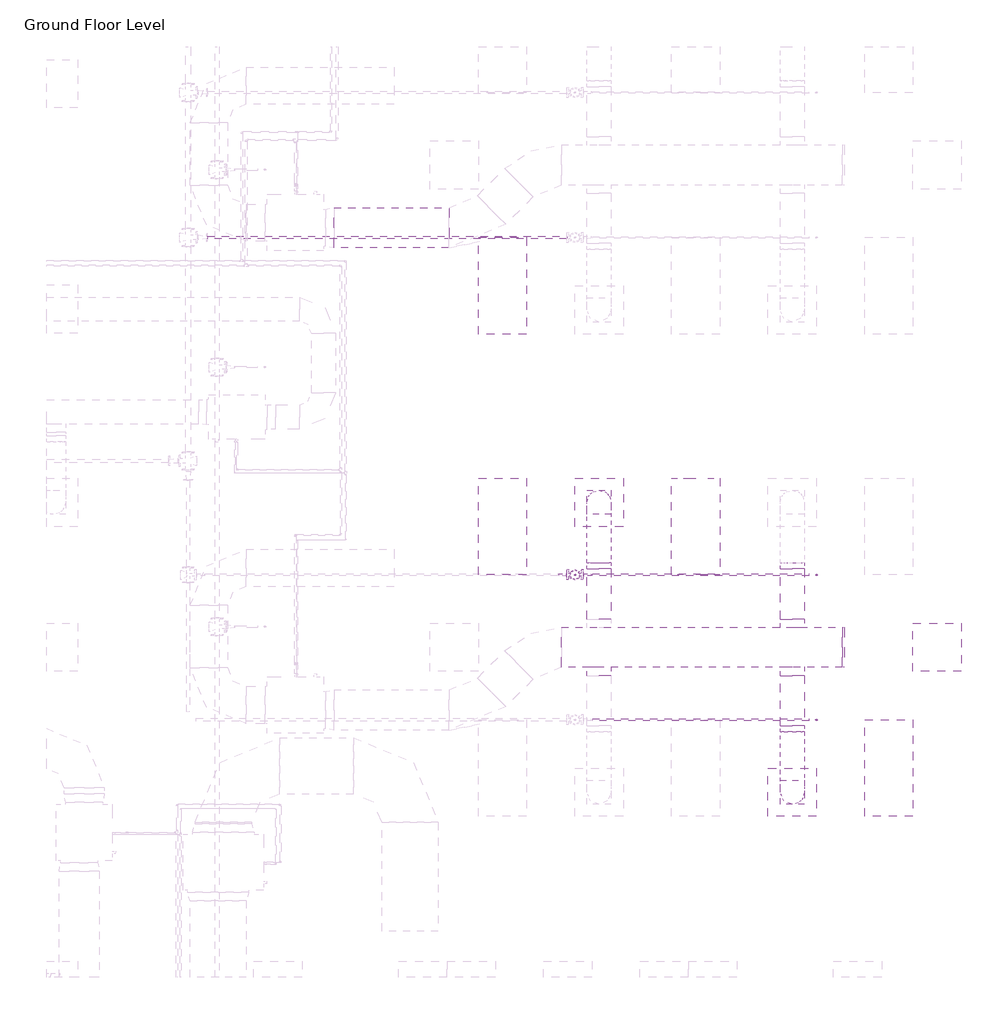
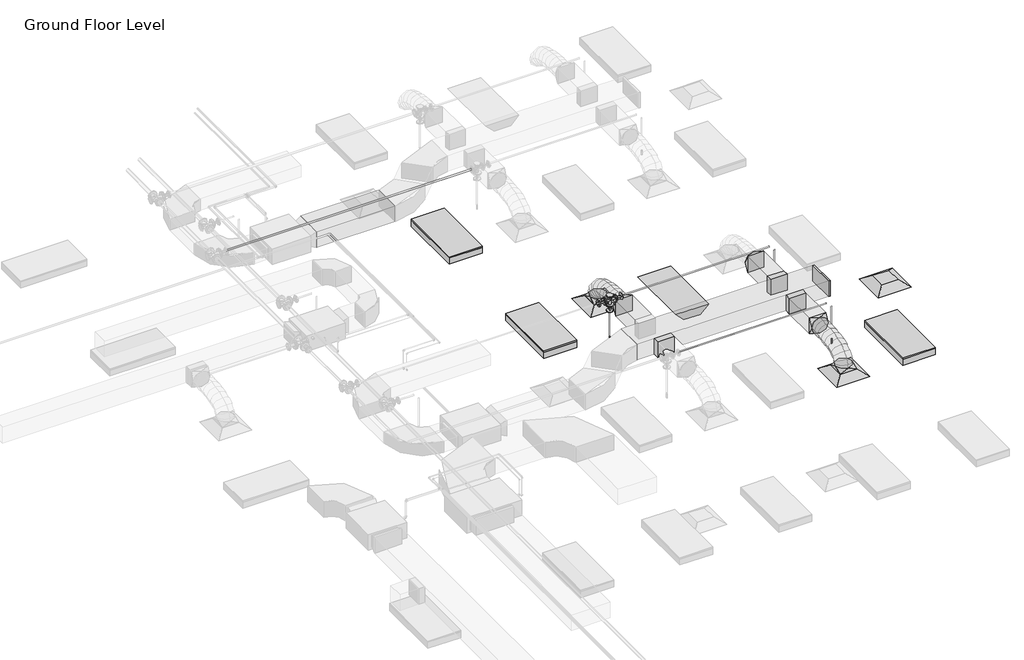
# One storey, part 37 of 74: 9 duct fittings, 7 duct segments, 6 pipe segments, 4 light fixtures, 4 pipe fittings, 3 air terminals, 3 fire suppression terminals.
"""IFC4 building model written with IfcOpenShell, lengths in millimetres."""

from ifc_helpers import new_model, si_unit, point, frame, frame_2d, origin, place, context, project, spatial, polyline, circle_curve, ellipse_curve, trimmed, segment, composite_curve, outline, extrude, transform, mapped, element, save
from ifc_brep_helpers import plane_surface, cylinder_surface, advanced_brep
from components import m_return_diffuser_600_x_600_face_300_x_300_connection_ff221211, m_rectangular_endcap_standard_72d4d00d, m_rectangular_takeoff_standard_cb0ccb98, m_rectangular_takeoff_standard_2be5eba1, m_rectangular_to_round_transition_angle_45_degree_641efff0, m_sprinkler_dry_pendent_hosted_15_mm_dry_pendent_9bda8e11, m_emergency_recessed_lighting_fixture_600x1200_277_5b10b25d, m_troffer_light_parabolic_rectangular1_0600x1200mm_4_lamp_86473d4a, m_reducer_flanged_cs_class_150_standard_ccf252ad, m_tee_round_base_flanged_cs_class_150_standard_7e5987a1

model = new_model("IFC4")

# Units and contexts
model_context = context("Model", 3, world=origin())
ifc_project = project(units=[si_unit("LENGTHUNIT", "METRE", prefix="MILLI")], contexts=[model_context])

# Site, building, storey
site = spatial("IfcSite", under=ifc_project)
building = spatial("IfcBuilding", under=site)
storey = spatial("IfcBuildingStorey", under=building, Name="Ground Floor Level", Elevation=900.0)

# Air terminals
placement = place(None, origin())
m_return_diffuser_600_x_600_face_300_x_300_connection_shape = m_return_diffuser_600_x_600_face_300_x_300_connection_ff221211(model_context)
element("IfcAirTerminal", 1, ObjectType="M_Return Diffuser : 600 x 600 Face 300 x 300 Connection", at=placement, inside=storey, context=model_context, shape_type="MappedRepresentation", body=[
    mapped(m_return_diffuser_600_x_600_face_300_x_300_connection_shape, transform((14942.7672395, -5264.7846466, 3650.0), x_axis=(1.0, 0.0, 0.0), y_axis=(0.0, 1.0, 0.0), z_axis=(0.0, 0.0, 1.0))),
])
element("IfcAirTerminal", 2, ObjectType="M_Supply Diffuser : 600 x 600 Face 300 x 300 Connection", at=placement, inside=storey, context=model_context, shape_type="MappedRepresentation", body=[
    mapped(m_return_diffuser_600_x_600_face_300_x_300_connection_shape, transform((10742.7672395, -3464.7846466, 3650.0), x_axis=(1.0, 0.0, 0.0), y_axis=(0.0, 1.0, 0.0), z_axis=(0.0, 0.0, 1.0))),
])
element("IfcAirTerminal", 3, ObjectType="M_Supply Diffuser : 600 x 600 Face 300 x 300 Connection", at=placement, inside=storey, context=model_context, shape_type="MappedRepresentation", body=[
    mapped(m_return_diffuser_600_x_600_face_300_x_300_connection_shape, transform((13142.7672395, -7064.7846466, 3650.0), x_axis=(1.0, 0.0, 0.0), y_axis=(0.0, 1.0, 0.0), z_axis=(0.0, 0.0, 1.0))),
])

# Duct fittings
m_rectangular_endcap_standard_shape = m_rectangular_endcap_standard_72d4d00d(model_context)
element("IfcDuctFitting", 4, ObjectType="M_Rectangular Endcap : Standard", at=placement, inside=storey, context=model_context, shape_type="MappedRepresentation", body=[
    mapped(m_rectangular_endcap_standard_shape, transform((13766.7301365, -5264.7846466, 4100.0), x_axis=(1.0, 0.0, 0.0), y_axis=(0.0, 1.0, 0.0), z_axis=(0.0, 0.0, 1.0))),
])
m_rectangular_takeoff_standard_shape = m_rectangular_takeoff_standard_cb0ccb98(model_context)
element("IfcDuctFitting", 5, ObjectType="M_Rectangular Takeoff : Standard", at=placement, inside=storey, context=model_context, shape_type="MappedRepresentation", body=[
    mapped(m_rectangular_takeoff_standard_shape, transform((13142.7672395, -5014.7846466, 4100.0), x_axis=(0.0, 1.0, 0.0), y_axis=(1.0, 0.0, 0.0), z_axis=(0.0, 0.0, -1.0))),
])
m_rectangular_takeoff_standard_2_shape = m_rectangular_takeoff_standard_2be5eba1(model_context)
element("IfcDuctFitting", 6, ObjectType="M_Rectangular Takeoff : Standard", at=placement, inside=storey, context=model_context, shape_type="MappedRepresentation", body=[
    mapped(m_rectangular_takeoff_standard_2_shape, transform((13142.7672395, -5514.7846466, 4100.0), x_axis=(0.0, -1.0, 0.0), y_axis=(-1.0, 0.0, 0.0), z_axis=(0.0, 0.0, -1.0))),
])
element("IfcDuctFitting", 7, ObjectType="M_Rectangular Takeoff : Standard", at=placement, inside=storey, context=model_context, shape_type="MappedRepresentation", body=[
    mapped(m_rectangular_takeoff_standard_2_shape, transform((10742.7672395, -5514.7846466, 4100.0), x_axis=(0.0, -1.0, 0.0), y_axis=(-1.0, 0.0, 0.0), z_axis=(0.0, 0.0, -1.0))),
])
m_rectangular_to_round_transition_angle_45_degree_shape = m_rectangular_to_round_transition_angle_45_degree_641efff0(model_context)
element("IfcDuctFitting", 8, ObjectType="M_Rectangular to Round Transition - Angle : 45 Degree", at=placement, inside=storey, context=model_context, shape_type="MappedRepresentation", body=[
    mapped(m_rectangular_to_round_transition_angle_45_degree_shape, transform((13142.7672395, -7064.7846466, 3751.6), x_axis=(0.0, 0.0, 1.0), y_axis=(-1.0, 0.0, 0.0), z_axis=(0.0, -1.0, 0.0))),
])
element("IfcDuctFitting", 9, ObjectType="M_Rectangular to Round Transition - Angle : 45 Degree", at=placement, inside=storey, context=model_context, shape_type="MappedRepresentation", body=[
    mapped(m_rectangular_to_round_transition_angle_45_degree_shape, transform((13142.7672395, -6237.4487153, 4100.0), x_axis=(0.0, -1.0, 0.0), y_axis=(1.0, 0.0, 0.0), z_axis=(0.0, 0.0, 1.0))),
])
element("IfcDuctFitting", 10, ObjectType="M_Rectangular to Round Transition - Angle : 45 Degree", at=placement, inside=storey, context=model_context, shape_type="MappedRepresentation", body=[
    mapped(m_rectangular_to_round_transition_angle_45_degree_shape, transform((13142.7672395, -4292.1205779, 4100.0), x_axis=(0.0, 1.0, 0.0), y_axis=(-1.0, 0.0, 0.0), z_axis=(0.0, 0.0, 1.0))),
])
element("IfcDuctFitting", 11, ObjectType="M_Rectangular to Round Transition - Angle : 45 Degree", at=placement, inside=storey, context=model_context, shape_type="MappedRepresentation", body=[
    mapped(m_rectangular_to_round_transition_angle_45_degree_shape, transform((10742.7672395, -3464.7846466, 3751.6), x_axis=(0.0, 0.0, 1.0), y_axis=(-1.0, 0.0, 0.0), z_axis=(0.0, -1.0, 0.0))),
])
element("IfcDuctFitting", 12, ObjectType="M_Rectangular to Round Transition - Angle : 45 Degree", at=placement, inside=storey, context=model_context, shape_type="MappedRepresentation", body=[
    mapped(m_rectangular_to_round_transition_angle_45_degree_shape, transform((10742.7672395, -4292.1205779, 4100.0), x_axis=(0.0, 1.0, 0.0), y_axis=(-1.0, 0.0, 0.0), z_axis=(0.0, 0.0, 1.0))),
])

# Duct segments
element("IfcDuctSegment", 13, ObjectType="Flex - Round", at=placement, inside=storey, context=model_context, shape_type="AdvancedBrep", body=[
    advanced_brep(
    [(13292.7672395, -7064.7846466, 3826.6), (13142.7672395, -7214.7846466, 3826.6), (12992.7672395, -7064.7846466, 3826.6), (13142.7672395, -6914.7846466, 3826.6), (13292.7672395, -7064.7846466, 3857.9377114), (13142.7672395, -7214.7846466, 3883.5809337), (12992.7672395, -7064.7846466, 3857.9377114), (13142.7672395, -6914.7846466, 3832.2944892), (13292.7672395, -7047.7687141, 3906.2505728), (13142.7672395, -7181.506693, 3978.0660967), (12992.7672395, -7047.7687141, 3906.2505728), (13142.7672395, -6914.0307351, 3834.435049), (13292.7672395, -7000.5848337, 3968.7113131), (13142.7672395, -7104.7907329, 4079.6206026), (12992.7672395, -7000.5848337, 3968.7113131), (13142.7672395, -6896.3789345, 3857.8020236), (13292.7672395, -6929.0288815, 4016.0700639), (13142.7672395, -6997.9629372, 4150.3237489), (12992.7672395, -6929.0288815, 4016.0700639), (13142.7672395, -6860.0948259, 3881.8163788), (13292.7672395, -6838.8967335, 4050.4146682), (13142.7672395, -6882.4574967, 4194.3367758), (12992.7672395, -6838.8967335, 4050.4146682), (13142.7672395, -6795.3359704, 3906.4925606), (13292.7672395, -6735.9842657, 4073.8329691), (13142.7672395, -6762.5451897, 4221.6234841), (12992.7672395, -6735.9842657, 4073.8329691), (13142.7672395, -6709.4233417, 3926.0424542), (13292.7672395, -6626.087354, 4088.4128097), (13142.7672395, -6641.2382563, 4237.7170733), (12992.7672395, -6626.087354, 4088.4128097), (13142.7672395, -6610.9364516, 3939.1085462), (13292.7672395, -6515.0018743, 4096.242033), (13142.7672395, -6522.5072025, 4246.085151), (12992.7672395, -6515.0018743, 4096.242033), (13142.7672395, -6507.4965462, 3946.398915), (13292.7672395, -6408.5237028, 4099.4084821), (13142.7672395, -6411.2151959, 4249.394754), (12992.7672395, -6408.5237028, 4099.4084821), (13142.7672395, -6405.8322097, 3949.4222102), (13292.7672395, -6312.4487153, 4100.0), (13142.7672395, -6311.5252075, 3950.0028429), (12992.7672395, -6312.4487153, 4100.0), (13142.7672395, -6313.3722232, 4249.9971571)],
    [
        (0, 1, circle_curve(frame((13142.7672395, -7064.7846466, 3826.6), z_axis=(0.0, 0.0, -1.0), x_axis=(1.0, 0.0, 0.0)), 150.0)),
        (1, 2, circle_curve(frame((13142.7672395, -7064.7846466, 3826.6), z_axis=(0.0, 0.0, -1.0), x_axis=(1.0, 0.0, 0.0)), 150.0)),
        (2, 3, circle_curve(frame((13142.7672395, -7064.7846466, 3826.6), z_axis=(0.0, 0.0, -1.0), x_axis=(1.0, 0.0, 0.0)), 150.0)),
        (3, 0, circle_curve(frame((13142.7672395, -7064.7846466, 3826.6), z_axis=(0.0, 0.0, -1.0), x_axis=(1.0, 0.0, 0.0)), 150.0)),
        (0, 4),
        (4, 5, ellipse_curve(frame((13142.7672395, -7064.7846466, 3857.9377114), z_axis=(0.0, -0.16851014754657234, -0.9856999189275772), x_axis=(0.0, 0.9856999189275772, -0.1685101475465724)), 152.176131, 150.0)),
        (5, 1),
        (5, 6, ellipse_curve(frame((13142.7672395, -7064.7846466, 3857.9377114), z_axis=(0.0, -0.16851014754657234, -0.9856999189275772), x_axis=(0.0, 0.9856999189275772, -0.1685101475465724)), 152.176131, 150.0)),
        (6, 2),
        (6, 7, ellipse_curve(frame((13142.7672395, -7064.7846466, 3857.9377114), z_axis=(0.0, -0.16851014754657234, -0.9856999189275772), x_axis=(0.0, 0.9856999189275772, -0.1685101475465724)), 152.176131, 150.0)),
        (7, 3),
        (7, 4, ellipse_curve(frame((13142.7672395, -7064.7846466, 3857.9377114), z_axis=(0.0, -0.16851014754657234, -0.9856999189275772), x_axis=(0.0, 0.9856999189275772, -0.1685101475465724)), 152.176131, 150.0)),
        (4, 8),
        (8, 9, ellipse_curve(frame((13142.7672395, -7047.7687141, 3906.2505728), z_axis=(0.0, -0.47309225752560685, -0.8810128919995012), x_axis=(0.0, 0.881012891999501, -0.4730922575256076)), 151.8002519, 150.0)),
        (9, 5),
        (9, 10, ellipse_curve(frame((13142.7672395, -7047.7687141, 3906.2505728), z_axis=(0.0, -0.47309225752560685, -0.8810128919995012), x_axis=(0.0, 0.881012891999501, -0.4730922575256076)), 151.8002519, 150.0)),
        (10, 6),
        (10, 11, ellipse_curve(frame((13142.7672395, -7047.7687141, 3906.2505728), z_axis=(0.0, -0.47309225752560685, -0.8810128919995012), x_axis=(0.0, 0.881012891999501, -0.4730922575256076)), 151.8002519, 150.0)),
        (11, 7),
        (11, 8, ellipse_curve(frame((13142.7672395, -7047.7687141, 3906.2505728), z_axis=(0.0, -0.47309225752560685, -0.8810128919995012), x_axis=(0.0, 0.881012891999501, -0.4730922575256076)), 151.8002519, 150.0)),
        (8, 12),
        (12, 13, ellipse_curve(frame((13142.7672395, -7000.5848337, 3968.7113131), z_axis=(0.0, -0.7287877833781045, -0.6847396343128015), x_axis=(0.0, 0.6847396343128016, -0.7287877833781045)), 152.1832446, 150.0)),
        (13, 9),
        (13, 14, ellipse_curve(frame((13142.7672395, -7000.5848337, 3968.7113131), z_axis=(0.0, -0.7287877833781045, -0.6847396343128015), x_axis=(0.0, 0.6847396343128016, -0.7287877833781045)), 152.1832446, 150.0)),
        (14, 10),
        (14, 15, ellipse_curve(frame((13142.7672395, -7000.5848337, 3968.7113131), z_axis=(0.0, -0.7287877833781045, -0.6847396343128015), x_axis=(0.0, 0.6847396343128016, -0.7287877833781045)), 152.1832446, 150.0)),
        (15, 11),
        (15, 12, ellipse_curve(frame((13142.7672395, -7000.5848337, 3968.7113131), z_axis=(0.0, -0.7287877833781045, -0.6847396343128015), x_axis=(0.0, 0.6847396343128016, -0.7287877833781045)), 152.1832446, 150.0)),
        (12, 16),
        (16, 17, ellipse_curve(frame((13142.7672395, -6929.0288815, 4016.0700639), z_axis=(0.0, -0.8895859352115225, -0.4567678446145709), x_axis=(0.0, 0.45676784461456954, -0.8895859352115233)), 150.91705, 150.0)),
        (17, 13),
        (17, 18, ellipse_curve(frame((13142.7672395, -6929.0288815, 4016.0700639), z_axis=(0.0, -0.8895859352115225, -0.4567678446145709), x_axis=(0.0, 0.45676784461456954, -0.8895859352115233)), 150.91705, 150.0)),
        (18, 14),
        (18, 19, ellipse_curve(frame((13142.7672395, -6929.0288815, 4016.0700639), z_axis=(0.0, -0.8895859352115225, -0.4567678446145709), x_axis=(0.0, 0.45676784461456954, -0.8895859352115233)), 150.91705, 150.0)),
        (19, 15),
        (19, 16, ellipse_curve(frame((13142.7672395, -6929.0288815, 4016.0700639), z_axis=(0.0, -0.8895859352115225, -0.4567678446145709), x_axis=(0.0, 0.45676784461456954, -0.8895859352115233)), 150.91705, 150.0)),
        (16, 20),
        (20, 21, ellipse_curve(frame((13142.7672395, -6838.8967335, 4050.4146682), z_axis=(0.0, -0.9571203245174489, -0.2896906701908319), x_axis=(0.0, 0.2896906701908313, -0.9571203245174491)), 150.369921, 150.0)),
        (21, 17),
        (21, 22, ellipse_curve(frame((13142.7672395, -6838.8967335, 4050.4146682), z_axis=(0.0, -0.9571203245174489, -0.2896906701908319), x_axis=(0.0, 0.2896906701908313, -0.9571203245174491)), 150.369921, 150.0)),
        (22, 18),
        (22, 23, ellipse_curve(frame((13142.7672395, -6838.8967335, 4050.4146682), z_axis=(0.0, -0.9571203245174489, -0.2896906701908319), x_axis=(0.0, 0.2896906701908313, -0.9571203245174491)), 150.369921, 150.0)),
        (23, 19),
        (23, 20, ellipse_curve(frame((13142.7672395, -6838.8967335, 4050.4146682), z_axis=(0.0, -0.9571203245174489, -0.2896906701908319), x_axis=(0.0, 0.2896906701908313, -0.9571203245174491)), 150.369921, 150.0)),
        (20, 24),
        (24, 25, ellipse_curve(frame((13142.7672395, -6735.9842657, 4073.8329691), z_axis=(0.0, -0.9842313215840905, -0.17688613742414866), x_axis=(0.0, 0.17688613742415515, -0.9842313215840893)), 150.1583131, 150.0)),
        (25, 21),
        (25, 26, ellipse_curve(frame((13142.7672395, -6735.9842657, 4073.8329691), z_axis=(0.0, -0.9842313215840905, -0.17688613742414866), x_axis=(0.0, 0.17688613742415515, -0.9842313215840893)), 150.1583131, 150.0)),
        (26, 22),
        (26, 27, ellipse_curve(frame((13142.7672395, -6735.9842657, 4073.8329691), z_axis=(0.0, -0.9842313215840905, -0.17688613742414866), x_axis=(0.0, 0.17688613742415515, -0.9842313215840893)), 150.1583131, 150.0)),
        (27, 23),
        (27, 24, ellipse_curve(frame((13142.7672395, -6735.9842657, 4073.8329691), z_axis=(0.0, -0.9842313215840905, -0.17688613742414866), x_axis=(0.0, 0.17688613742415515, -0.9842313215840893)), 150.1583131, 150.0)),
        (24, 28),
        (28, 29, ellipse_curve(frame((13142.7672395, -6626.087354, 4088.4128097), z_axis=(0.0, -0.9948906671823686, -0.10095821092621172), x_axis=(0.0, 0.10095821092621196, -0.9948906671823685)), 150.0710264, 150.0)),
        (29, 25),
        (29, 30, ellipse_curve(frame((13142.7672395, -6626.087354, 4088.4128097), z_axis=(0.0, -0.9948906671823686, -0.10095821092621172), x_axis=(0.0, 0.10095821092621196, -0.9948906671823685)), 150.0710264, 150.0)),
        (30, 26),
        (30, 31, ellipse_curve(frame((13142.7672395, -6626.087354, 4088.4128097), z_axis=(0.0, -0.9948906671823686, -0.10095821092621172), x_axis=(0.0, 0.10095821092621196, -0.9948906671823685)), 150.0710264, 150.0)),
        (31, 27),
        (31, 28, ellipse_curve(frame((13142.7672395, -6626.087354, 4088.4128097), z_axis=(0.0, -0.9948906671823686, -0.10095821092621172), x_axis=(0.0, 0.10095821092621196, -0.9948906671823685)), 150.0710264, 150.0)),
        (28, 32),
        (32, 33, ellipse_curve(frame((13142.7672395, -6515.0018743, 4096.242033), z_axis=(0.0, -0.9987479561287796, -0.050025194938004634), x_axis=(0.0, 0.050025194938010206, -0.9987479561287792)), 150.0309634, 150.0)),
        (33, 29),
        (33, 34, ellipse_curve(frame((13142.7672395, -6515.0018743, 4096.242033), z_axis=(0.0, -0.9987479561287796, -0.050025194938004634), x_axis=(0.0, 0.050025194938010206, -0.9987479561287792)), 150.0309634, 150.0)),
        (34, 30),
        (34, 35, ellipse_curve(frame((13142.7672395, -6515.0018743, 4096.242033), z_axis=(0.0, -0.9987479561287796, -0.050025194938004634), x_axis=(0.0, 0.050025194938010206, -0.9987479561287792)), 150.0309634, 150.0)),
        (35, 31),
        (35, 32, ellipse_curve(frame((13142.7672395, -6515.0018743, 4096.242033), z_axis=(0.0, -0.9987479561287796, -0.050025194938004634), x_axis=(0.0, 0.050025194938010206, -0.9987479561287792)), 150.0309634, 150.0)),
        (32, 36),
        (36, 37, ellipse_curve(frame((13142.7672395, -6408.5237028, 4099.4084821), z_axis=(0.0, -0.9998390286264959, -0.01794204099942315), x_axis=(0.0, 0.01794204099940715, -0.9998390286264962)), 150.0104193, 150.0)),
        (37, 33),
        (37, 38, ellipse_curve(frame((13142.7672395, -6408.5237028, 4099.4084821), z_axis=(0.0, -0.9998390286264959, -0.01794204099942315), x_axis=(0.0, 0.01794204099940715, -0.9998390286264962)), 150.0104193, 150.0)),
        (38, 34),
        (38, 39, ellipse_curve(frame((13142.7672395, -6408.5237028, 4099.4084821), z_axis=(0.0, -0.9998390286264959, -0.01794204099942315), x_axis=(0.0, 0.01794204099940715, -0.9998390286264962)), 150.0104193, 150.0)),
        (39, 35),
        (39, 36, ellipse_curve(frame((13142.7672395, -6408.5237028, 4099.4084821), z_axis=(0.0, -0.9998390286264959, -0.01794204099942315), x_axis=(0.0, 0.01794204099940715, -0.9998390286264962)), 150.0104193, 150.0)),
        (40, 41, circle_curve(frame((13142.7672395, -6312.4487153, 4100.0), z_axis=(0.0, 0.9999810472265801, 0.0061567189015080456), x_axis=(1.0, 0.0, 0.0)), 150.0)),
        (41, 42, circle_curve(frame((13142.7672395, -6312.4487153, 4100.0), z_axis=(0.0, 0.9999810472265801, 0.0061567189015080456), x_axis=(1.0, 0.0, 0.0)), 150.0)),
        (42, 43, circle_curve(frame((13142.7672395, -6312.4487153, 4100.0), z_axis=(0.0, 0.9999810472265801, 0.0061567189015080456), x_axis=(1.0, 0.0, 0.0)), 150.0)),
        (43, 40, circle_curve(frame((13142.7672395, -6312.4487153, 4100.0), z_axis=(0.0, 0.9999810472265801, 0.0061567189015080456), x_axis=(1.0, 0.0, 0.0)), 150.0)),
        (36, 40),
        (43, 37),
        (42, 38),
        (41, 39),
    ],
    [
        plane_surface(frame((13142.7672395, -7214.7846466, 3826.6), z_axis=(0.0, 0.0, -1.0), x_axis=(1.0, 0.0, 0.0))),
        cylinder_surface(frame((13142.7672395, -7064.7846466, 3826.6), z_axis=(0.0, 0.0, -1.0), x_axis=(1.0, 0.0, 0.0)), 150.0),
        cylinder_surface(frame((13142.7672395, -7064.7846466, 3857.9377114), z_axis=(0.0, -0.3322008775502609, -0.9432086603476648), x_axis=(1.0, 0.0, 0.0)), 150.0),
        cylinder_surface(frame((13142.7672395, -7047.7687141, 3906.2505728), z_axis=(0.0, -0.602762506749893, -0.7979206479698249), x_axis=(1.0, 0.0, 0.0)), 150.0),
        cylinder_surface(frame((13142.7672395, -7000.5848337, 3968.7113131), z_axis=(0.0, -0.833902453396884, -0.5519118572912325), x_axis=(1.0, 0.0, 0.0)), 150.0),
        cylinder_surface(frame((13142.7672395, -6929.0288815, 4016.0700639), z_axis=(0.0, -0.934458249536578, -0.35607271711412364), x_axis=(1.0, 0.0, 0.0)), 150.0),
        cylinder_surface(frame((13142.7672395, -6838.8967335, 4050.4146682), z_axis=(0.0, -0.9750732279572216, -0.22188330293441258), x_axis=(1.0, 0.0, 0.0)), 150.0),
        cylinder_surface(frame((13142.7672395, -6735.9842657, 4073.8329691), z_axis=(0.0, -0.9913140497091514, -0.1315159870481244), x_axis=(1.0, 0.0, 0.0)), 150.0),
        cylinder_surface(frame((13142.7672395, -6626.087354, 4088.4128097), z_axis=(0.0, -0.9975255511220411, -0.07030487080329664), x_axis=(1.0, 0.0, 0.0)), 150.0),
        cylinder_surface(frame((13142.7672395, -6515.0018743, 4096.242033), z_axis=(0.0, -0.9995581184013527, -0.029724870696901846), x_axis=(1.0, 0.0, 0.0)), 150.0),
        plane_surface(frame((13142.7672395, -6313.3722232, 4249.9971571), z_axis=(0.0, 0.9999810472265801, 0.0061567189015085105), x_axis=(1.0, 0.0, 0.0))),
        cylinder_surface(frame((13142.7672395, -6408.5237028, 4099.4084821), z_axis=(0.0, -0.9999810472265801, -0.0061567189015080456), x_axis=(1.0, 0.0, 0.0)), 150.0),
    ],
    [
        (0, [[1, 2, 3, 4]]),
        (1, [[-1, 5, 6, 7]]),
        (1, [[-2, -7, 8, 9]]),
        (1, [[-3, -9, 10, 11]]),
        (1, [[-4, -11, 12, -5]]),
        (2, [[-6, 13, 14, 15]]),
        (2, [[-8, -15, 16, 17]]),
        (2, [[-10, -17, 18, 19]]),
        (2, [[-12, -19, 20, -13]]),
        (3, [[-14, 21, 22, 23]]),
        (3, [[-16, -23, 24, 25]]),
        (3, [[-18, -25, 26, 27]]),
        (3, [[-20, -27, 28, -21]]),
        (4, [[-22, 29, 30, 31]]),
        (4, [[-24, -31, 32, 33]]),
        (4, [[-26, -33, 34, 35]]),
        (4, [[-28, -35, 36, -29]]),
        (5, [[-30, 37, 38, 39]]),
        (5, [[-32, -39, 40, 41]]),
        (5, [[-34, -41, 42, 43]]),
        (5, [[-36, -43, 44, -37]]),
        (6, [[-38, 45, 46, 47]]),
        (6, [[-40, -47, 48, 49]]),
        (6, [[-42, -49, 50, 51]]),
        (6, [[-44, -51, 52, -45]]),
        (7, [[-46, 53, 54, 55]]),
        (7, [[-48, -55, 56, 57]]),
        (7, [[-50, -57, 58, 59]]),
        (7, [[-52, -59, 60, -53]]),
        (8, [[-54, 61, 62, 63]]),
        (8, [[-56, -63, 64, 65]]),
        (8, [[-58, -65, 66, 67]]),
        (8, [[-60, -67, 68, -61]]),
        (9, [[-62, 69, 70, 71]]),
        (9, [[-64, -71, 72, 73]]),
        (9, [[-66, -73, 74, 75]]),
        (9, [[-68, -75, 76, -69]]),
        (10, [[77, 78, 79, 80]]),
        (11, [[-70, 81, -80, 82]]),
        (11, [[-72, -82, -79, 83]]),
        (11, [[-74, -83, -78, 84]]),
        (11, [[-76, -84, -77, -81]]),
    ],
),
])
element("IfcDuctSegment", 14, ObjectType="Flex - Round", at=placement, inside=storey, context=model_context, shape_type="AdvancedBrep", body=[
    advanced_brep(
    [(10892.7672395, -3464.7846466, 3826.6), (10742.7672395, -3614.7846466, 3826.6), (10592.7672395, -3464.7846466, 3826.6), (10742.7672395, -3314.7846466, 3826.6), (10892.7672395, -3464.7846466, 3857.9377114), (10742.7672395, -3614.7846466, 3832.2944892), (10592.7672395, -3464.7846466, 3857.9377114), (10742.7672395, -3314.7846466, 3883.5809337), (10892.7672395, -3481.8005792, 3906.2505728), (10742.7672395, -3615.5385581, 3834.435049), (10592.7672395, -3481.8005792, 3906.2505728), (10742.7672395, -3348.0626002, 3978.0660967), (10892.7672395, -3528.9844595, 3968.7113131), (10742.7672395, -3633.1903588, 3857.8020236), (10592.7672395, -3528.9844595, 3968.7113131), (10742.7672395, -3424.7785603, 4079.6206026), (10892.7672395, -3600.5404117, 4016.0700639), (10742.7672395, -3669.4744673, 3881.8163788), (10592.7672395, -3600.5404117, 4016.0700639), (10742.7672395, -3531.606356, 4150.3237489), (10892.7672395, -3690.6725597, 4050.4146682), (10742.7672395, -3734.2333228, 3906.4925606), (10592.7672395, -3690.6725597, 4050.4146682), (10742.7672395, -3647.1117965, 4194.3367758), (10892.7672395, -3793.5850275, 4073.8329691), (10742.7672395, -3820.1459515, 3926.0424542), (10592.7672395, -3793.5850275, 4073.8329691), (10742.7672395, -3767.0241035, 4221.6234841), (10892.7672395, -3903.4819392, 4088.4128097), (10742.7672395, -3918.6328416, 3939.1085462), (10592.7672395, -3903.4819392, 4088.4128097), (10742.7672395, -3888.3310369, 4237.7170733), (10892.7672395, -4014.5674189, 4096.242033), (10742.7672395, -4022.0727471, 3946.398915), (10592.7672395, -4014.5674189, 4096.242033), (10742.7672395, -4007.0620907, 4246.085151), (10892.7672395, -4121.0455904, 4099.4084821), (10742.7672395, -4123.7370835, 3949.4222102), (10592.7672395, -4121.0455904, 4099.4084821), (10742.7672395, -4118.3540973, 4249.394754), (10892.7672395, -4217.1205779, 4100.0), (10742.7672395, -4216.1970701, 4249.9971571), (10592.7672395, -4217.1205779, 4100.0), (10742.7672395, -4218.0440857, 3950.0028429)],
    [
        (0, 1, circle_curve(frame((10742.7672395, -3464.7846466, 3826.6), z_axis=(0.0, 0.0, -1.0), x_axis=(1.0, 0.0, 0.0)), 150.0)),
        (1, 2, circle_curve(frame((10742.7672395, -3464.7846466, 3826.6), z_axis=(0.0, 0.0, -1.0), x_axis=(1.0, 0.0, 0.0)), 150.0)),
        (2, 3, circle_curve(frame((10742.7672395, -3464.7846466, 3826.6), z_axis=(0.0, 0.0, -1.0), x_axis=(1.0, 0.0, 0.0)), 150.0)),
        (3, 0, circle_curve(frame((10742.7672395, -3464.7846466, 3826.6), z_axis=(0.0, 0.0, -1.0), x_axis=(1.0, 0.0, 0.0)), 150.0)),
        (0, 4),
        (4, 5, ellipse_curve(frame((10742.7672395, -3464.7846466, 3857.9377114), z_axis=(0.0, 0.16851014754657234, -0.9856999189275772), x_axis=(0.0, -0.9856999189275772, -0.1685101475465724)), 152.176131, 150.0)),
        (5, 1),
        (5, 6, ellipse_curve(frame((10742.7672395, -3464.7846466, 3857.9377114), z_axis=(0.0, 0.16851014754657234, -0.9856999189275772), x_axis=(0.0, -0.9856999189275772, -0.1685101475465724)), 152.176131, 150.0)),
        (6, 2),
        (6, 7, ellipse_curve(frame((10742.7672395, -3464.7846466, 3857.9377114), z_axis=(0.0, 0.16851014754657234, -0.9856999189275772), x_axis=(0.0, -0.9856999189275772, -0.1685101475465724)), 152.176131, 150.0)),
        (7, 3),
        (7, 4, ellipse_curve(frame((10742.7672395, -3464.7846466, 3857.9377114), z_axis=(0.0, 0.16851014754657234, -0.9856999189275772), x_axis=(0.0, -0.9856999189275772, -0.1685101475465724)), 152.176131, 150.0)),
        (4, 8),
        (8, 9, ellipse_curve(frame((10742.7672395, -3481.8005792, 3906.2505728), z_axis=(0.0, 0.47309225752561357, -0.8810128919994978), x_axis=(0.0, -0.8810128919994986, -0.47309225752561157)), 151.8002519, 150.0)),
        (9, 5),
        (9, 10, ellipse_curve(frame((10742.7672395, -3481.8005792, 3906.2505728), z_axis=(0.0, 0.47309225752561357, -0.8810128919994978), x_axis=(0.0, -0.8810128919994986, -0.47309225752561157)), 151.8002519, 150.0)),
        (10, 6),
        (10, 11, ellipse_curve(frame((10742.7672395, -3481.8005792, 3906.2505728), z_axis=(0.0, 0.47309225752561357, -0.8810128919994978), x_axis=(0.0, -0.8810128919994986, -0.47309225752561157)), 151.8002519, 150.0)),
        (11, 7),
        (11, 8, ellipse_curve(frame((10742.7672395, -3481.8005792, 3906.2505728), z_axis=(0.0, 0.47309225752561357, -0.8810128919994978), x_axis=(0.0, -0.8810128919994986, -0.47309225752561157)), 151.8002519, 150.0)),
        (8, 12),
        (12, 13, ellipse_curve(frame((10742.7672395, -3528.9844595, 3968.7113131), z_axis=(0.0, 0.7287877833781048, -0.6847396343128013), x_axis=(0.0, -0.6847396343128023, -0.7287877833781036)), 152.1832446, 150.0)),
        (13, 9),
        (13, 14, ellipse_curve(frame((10742.7672395, -3528.9844595, 3968.7113131), z_axis=(0.0, 0.7287877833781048, -0.6847396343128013), x_axis=(0.0, -0.6847396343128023, -0.7287877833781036)), 152.1832446, 150.0)),
        (14, 10),
        (14, 15, ellipse_curve(frame((10742.7672395, -3528.9844595, 3968.7113131), z_axis=(0.0, 0.7287877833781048, -0.6847396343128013), x_axis=(0.0, -0.6847396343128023, -0.7287877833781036)), 152.1832446, 150.0)),
        (15, 11),
        (15, 12, ellipse_curve(frame((10742.7672395, -3528.9844595, 3968.7113131), z_axis=(0.0, 0.7287877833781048, -0.6847396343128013), x_axis=(0.0, -0.6847396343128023, -0.7287877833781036)), 152.1832446, 150.0)),
        (12, 16),
        (16, 17, ellipse_curve(frame((10742.7672395, -3600.5404117, 4016.0700639), z_axis=(0.0, 0.8895859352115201, -0.45676784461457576), x_axis=(0.0, -0.45676784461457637, -0.8895859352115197)), 150.91705, 150.0)),
        (17, 13),
        (17, 18, ellipse_curve(frame((10742.7672395, -3600.5404117, 4016.0700639), z_axis=(0.0, 0.8895859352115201, -0.45676784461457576), x_axis=(0.0, -0.45676784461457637, -0.8895859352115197)), 150.91705, 150.0)),
        (18, 14),
        (18, 19, ellipse_curve(frame((10742.7672395, -3600.5404117, 4016.0700639), z_axis=(0.0, 0.8895859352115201, -0.45676784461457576), x_axis=(0.0, -0.45676784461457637, -0.8895859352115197)), 150.91705, 150.0)),
        (19, 15),
        (19, 16, ellipse_curve(frame((10742.7672395, -3600.5404117, 4016.0700639), z_axis=(0.0, 0.8895859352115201, -0.45676784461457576), x_axis=(0.0, -0.45676784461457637, -0.8895859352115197)), 150.91705, 150.0)),
        (16, 20),
        (20, 21, ellipse_curve(frame((10742.7672395, -3690.6725597, 4050.4146682), z_axis=(0.0, 0.9571203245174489, -0.2896906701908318), x_axis=(0.0, -0.28969067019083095, -0.9571203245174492)), 150.369921, 150.0)),
        (21, 17),
        (21, 22, ellipse_curve(frame((10742.7672395, -3690.6725597, 4050.4146682), z_axis=(0.0, 0.9571203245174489, -0.2896906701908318), x_axis=(0.0, -0.28969067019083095, -0.9571203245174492)), 150.369921, 150.0)),
        (22, 18),
        (22, 23, ellipse_curve(frame((10742.7672395, -3690.6725597, 4050.4146682), z_axis=(0.0, 0.9571203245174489, -0.2896906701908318), x_axis=(0.0, -0.28969067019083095, -0.9571203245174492)), 150.369921, 150.0)),
        (23, 19),
        (23, 20, ellipse_curve(frame((10742.7672395, -3690.6725597, 4050.4146682), z_axis=(0.0, 0.9571203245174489, -0.2896906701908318), x_axis=(0.0, -0.28969067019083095, -0.9571203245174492)), 150.369921, 150.0)),
        (20, 24),
        (24, 25, ellipse_curve(frame((10742.7672395, -3793.5850275, 4073.8329691), z_axis=(0.0, 0.9842313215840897, -0.17688613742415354), x_axis=(0.0, -0.1768861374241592, -0.9842313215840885)), 150.1583131, 150.0)),
        (25, 21),
        (25, 26, ellipse_curve(frame((10742.7672395, -3793.5850275, 4073.8329691), z_axis=(0.0, 0.9842313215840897, -0.17688613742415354), x_axis=(0.0, -0.1768861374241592, -0.9842313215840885)), 150.1583131, 150.0)),
        (26, 22),
        (26, 27, ellipse_curve(frame((10742.7672395, -3793.5850275, 4073.8329691), z_axis=(0.0, 0.9842313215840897, -0.17688613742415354), x_axis=(0.0, -0.1768861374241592, -0.9842313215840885)), 150.1583131, 150.0)),
        (27, 23),
        (27, 24, ellipse_curve(frame((10742.7672395, -3793.5850275, 4073.8329691), z_axis=(0.0, 0.9842313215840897, -0.17688613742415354), x_axis=(0.0, -0.1768861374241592, -0.9842313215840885)), 150.1583131, 150.0)),
        (24, 28),
        (28, 29, ellipse_curve(frame((10742.7672395, -3903.4819392, 4088.4128097), z_axis=(0.0, 0.9948906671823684, -0.10095821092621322), x_axis=(0.0, -0.10095821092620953, -0.9948906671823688)), 150.0710264, 150.0)),
        (29, 25),
        (29, 30, ellipse_curve(frame((10742.7672395, -3903.4819392, 4088.4128097), z_axis=(0.0, 0.9948906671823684, -0.10095821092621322), x_axis=(0.0, -0.10095821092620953, -0.9948906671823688)), 150.0710264, 150.0)),
        (30, 26),
        (30, 31, ellipse_curve(frame((10742.7672395, -3903.4819392, 4088.4128097), z_axis=(0.0, 0.9948906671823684, -0.10095821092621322), x_axis=(0.0, -0.10095821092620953, -0.9948906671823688)), 150.0710264, 150.0)),
        (31, 27),
        (31, 28, ellipse_curve(frame((10742.7672395, -3903.4819392, 4088.4128097), z_axis=(0.0, 0.9948906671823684, -0.10095821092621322), x_axis=(0.0, -0.10095821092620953, -0.9948906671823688)), 150.0710264, 150.0)),
        (28, 32),
        (32, 33, ellipse_curve(frame((10742.7672395, -4014.5674189, 4096.242033), z_axis=(0.0, 0.9987479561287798, -0.050025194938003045), x_axis=(0.0, -0.05002519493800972, -0.9987479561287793)), 150.0309634, 150.0)),
        (33, 29),
        (33, 34, ellipse_curve(frame((10742.7672395, -4014.5674189, 4096.242033), z_axis=(0.0, 0.9987479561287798, -0.050025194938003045), x_axis=(0.0, -0.05002519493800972, -0.9987479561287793)), 150.0309634, 150.0)),
        (34, 30),
        (34, 35, ellipse_curve(frame((10742.7672395, -4014.5674189, 4096.242033), z_axis=(0.0, 0.9987479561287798, -0.050025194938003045), x_axis=(0.0, -0.05002519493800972, -0.9987479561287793)), 150.0309634, 150.0)),
        (35, 31),
        (35, 32, ellipse_curve(frame((10742.7672395, -4014.5674189, 4096.242033), z_axis=(0.0, 0.9987479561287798, -0.050025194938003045), x_axis=(0.0, -0.05002519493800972, -0.9987479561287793)), 150.0309634, 150.0)),
        (32, 36),
        (36, 37, ellipse_curve(frame((10742.7672395, -4121.0455904, 4099.4084821), z_axis=(0.0, 0.9998390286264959, -0.017942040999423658), x_axis=(0.0, -0.017942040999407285, -0.9998390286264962)), 150.0104193, 150.0)),
        (37, 33),
        (37, 38, ellipse_curve(frame((10742.7672395, -4121.0455904, 4099.4084821), z_axis=(0.0, 0.9998390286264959, -0.017942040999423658), x_axis=(0.0, -0.017942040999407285, -0.9998390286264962)), 150.0104193, 150.0)),
        (38, 34),
        (38, 39, ellipse_curve(frame((10742.7672395, -4121.0455904, 4099.4084821), z_axis=(0.0, 0.9998390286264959, -0.017942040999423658), x_axis=(0.0, -0.017942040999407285, -0.9998390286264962)), 150.0104193, 150.0)),
        (39, 35),
        (39, 36, ellipse_curve(frame((10742.7672395, -4121.0455904, 4099.4084821), z_axis=(0.0, 0.9998390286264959, -0.017942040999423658), x_axis=(0.0, -0.017942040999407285, -0.9998390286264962)), 150.0104193, 150.0)),
        (40, 41, circle_curve(frame((10742.7672395, -4217.1205779, 4100.0), z_axis=(0.0, -0.9999810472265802, 0.006156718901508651), x_axis=(1.0, 0.0, 0.0)), 150.0)),
        (41, 42, circle_curve(frame((10742.7672395, -4217.1205779, 4100.0), z_axis=(0.0, -0.9999810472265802, 0.006156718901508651), x_axis=(1.0, 0.0, 0.0)), 150.0)),
        (42, 43, circle_curve(frame((10742.7672395, -4217.1205779, 4100.0), z_axis=(0.0, -0.9999810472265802, 0.006156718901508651), x_axis=(1.0, 0.0, 0.0)), 150.0)),
        (43, 40, circle_curve(frame((10742.7672395, -4217.1205779, 4100.0), z_axis=(0.0, -0.9999810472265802, 0.006156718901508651), x_axis=(1.0, 0.0, 0.0)), 150.0)),
        (36, 40),
        (43, 37),
        (42, 38),
        (41, 39),
    ],
    [
        plane_surface(frame((10742.7672395, -3614.7846466, 3826.6), z_axis=(0.0, 0.0, -1.0), x_axis=(1.0, 0.0, 0.0))),
        cylinder_surface(frame((10742.7672395, -3464.7846466, 3826.6), z_axis=(0.0, 0.0, -1.0), x_axis=(1.0, 0.0, 0.0)), 150.0),
        cylinder_surface(frame((10742.7672395, -3464.7846466, 3857.9377114), z_axis=(0.0, 0.3322008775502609, -0.9432086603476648), x_axis=(1.0, 0.0, 0.0)), 150.0),
        cylinder_surface(frame((10742.7672395, -3481.8005792, 3906.2505728), z_axis=(0.0, 0.6027625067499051, -0.7979206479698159), x_axis=(1.0, 0.0, 0.0)), 150.0),
        cylinder_surface(frame((10742.7672395, -3528.9844595, 3968.7113131), z_axis=(0.0, 0.833902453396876, -0.5519118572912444), x_axis=(1.0, 0.0, 0.0)), 150.0),
        cylinder_surface(frame((10742.7672395, -3600.5404117, 4016.0700639), z_axis=(0.0, 0.9344582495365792, -0.35607271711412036), x_axis=(1.0, 0.0, 0.0)), 150.0),
        cylinder_surface(frame((10742.7672395, -3690.6725597, 4050.4146682), z_axis=(0.0, 0.9750732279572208, -0.22188330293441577), x_axis=(1.0, 0.0, 0.0)), 150.0),
        cylinder_surface(frame((10742.7672395, -3793.5850275, 4073.8329691), z_axis=(0.0, 0.9913140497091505, -0.131515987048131), x_axis=(1.0, 0.0, 0.0)), 150.0),
        cylinder_surface(frame((10742.7672395, -3903.4819392, 4088.4128097), z_axis=(0.0, 0.9975255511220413, -0.07030487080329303), x_axis=(1.0, 0.0, 0.0)), 150.0),
        cylinder_surface(frame((10742.7672395, -4014.5674189, 4096.242033), z_axis=(0.0, 0.9995581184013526, -0.02972487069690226), x_axis=(1.0, 0.0, 0.0)), 150.0),
        plane_surface(frame((10742.7672395, -4218.0440857, 3950.0028429), z_axis=(0.0, -0.9999810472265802, 0.006156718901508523), x_axis=(1.0, 0.0, 0.0))),
        cylinder_surface(frame((10742.7672395, -4121.0455904, 4099.4084821), z_axis=(0.0, 0.9999810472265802, -0.006156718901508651), x_axis=(1.0, 0.0, 0.0)), 150.0),
    ],
    [
        (0, [[1, 2, 3, 4]]),
        (1, [[-1, 5, 6, 7]]),
        (1, [[-2, -7, 8, 9]]),
        (1, [[-3, -9, 10, 11]]),
        (1, [[-4, -11, 12, -5]]),
        (2, [[-6, 13, 14, 15]]),
        (2, [[-8, -15, 16, 17]]),
        (2, [[-10, -17, 18, 19]]),
        (2, [[-12, -19, 20, -13]]),
        (3, [[-14, 21, 22, 23]]),
        (3, [[-16, -23, 24, 25]]),
        (3, [[-18, -25, 26, 27]]),
        (3, [[-20, -27, 28, -21]]),
        (4, [[-22, 29, 30, 31]]),
        (4, [[-24, -31, 32, 33]]),
        (4, [[-26, -33, 34, 35]]),
        (4, [[-28, -35, 36, -29]]),
        (5, [[-30, 37, 38, 39]]),
        (5, [[-32, -39, 40, 41]]),
        (5, [[-34, -41, 42, 43]]),
        (5, [[-36, -43, 44, -37]]),
        (6, [[-38, 45, 46, 47]]),
        (6, [[-40, -47, 48, 49]]),
        (6, [[-42, -49, 50, 51]]),
        (6, [[-44, -51, 52, -45]]),
        (7, [[-46, 53, 54, 55]]),
        (7, [[-48, -55, 56, 57]]),
        (7, [[-50, -57, 58, 59]]),
        (7, [[-52, -59, 60, -53]]),
        (8, [[-54, 61, 62, 63]]),
        (8, [[-56, -63, 64, 65]]),
        (8, [[-58, -65, 66, 67]]),
        (8, [[-60, -67, 68, -61]]),
        (9, [[-62, 69, 70, 71]]),
        (9, [[-64, -71, 72, 73]]),
        (9, [[-66, -73, 74, 75]]),
        (9, [[-68, -75, 76, -69]]),
        (10, [[77, 78, 79, 80]]),
        (11, [[-70, 81, -80, 82]]),
        (11, [[-72, -82, -79, 83]]),
        (11, [[-74, -83, -78, 84]]),
        (11, [[-76, -84, -77, -81]]),
    ],
),
])
element("IfcDuctSegment", 15, ObjectType="Radius Elbows / Taps", at=placement, inside=storey, context=model_context, shape_type="SweptSolid", body=[
    extrude(outline(polyline([(7447.693178, -303.8220473), (7447.693178, 196.1779527), (8877.032564, 196.1779527), (8877.032564, -303.8220473), (7447.693178, -303.8220473)])), frame((0.0, 0.0, 3950.0057729), z_axis=(0.0, 0.0, 1.0), x_axis=(1.0, 0.0, 0.0)), (0.0, 0.0, 1.0), 300.0),
])
element("IfcDuctSegment", 16, ObjectType="Radius Elbows / Taps", at=placement, inside=storey, context=model_context, shape_type="SweptSolid", body=[
    extrude(outline(polyline([(10277.3903083, -5514.7846466), (10277.3903083, -5014.7846466), (13766.7301365, -5014.7846466), (13766.7301365, -5514.7846466), (10277.3903083, -5514.7846466)])), frame((0.0, 0.0, 3950.0), z_axis=(0.0, 0.0, 1.0), x_axis=(1.0, 0.0, 0.0)), (0.0, 0.0, 1.0), 300.0),
])
element("IfcDuctSegment", 17, ObjectType="Radius Elbows / Taps", at=placement, inside=storey, context=model_context, shape_type="SweptSolid", body=[
    extrude(outline(polyline([(10892.7672395, -4913.1846466), (10592.7672395, -4913.1846466), (10592.7672395, -4292.1205779), (10892.7672395, -4292.1205779), (10892.7672395, -4913.1846466)])), frame((0.0, 0.0, 3950.0), z_axis=(0.0, 0.0, 1.0), x_axis=(1.0, 0.0, 0.0)), (0.0, 0.0, 1.0), 300.0),
])
element("IfcDuctSegment", 18, ObjectType="Radius Elbows / Taps", at=placement, inside=storey, context=model_context, shape_type="SweptSolid", body=[
    extrude(outline(polyline([(13292.7672395, -4913.1846466), (12992.7672395, -4913.1846466), (12992.7672395, -4292.1205779), (13292.7672395, -4292.1205779), (13292.7672395, -4913.1846466)])), frame((0.0, 0.0, 3950.0), z_axis=(0.0, 0.0, 1.0), x_axis=(1.0, 0.0, 0.0)), (0.0, 0.0, 1.0), 300.0),
])
element("IfcDuctSegment", 19, ObjectType="Radius Elbows / Taps", at=placement, inside=storey, context=model_context, shape_type="SweptSolid", body=[
    extrude(outline(polyline([(12992.7672395, -5616.3846466), (13292.7672395, -5616.3846466), (13292.7672395, -6237.4487153), (12992.7672395, -6237.4487153), (12992.7672395, -5616.3846466)])), frame((0.0, 0.0, 3950.0), z_axis=(0.0, 0.0, 1.0), x_axis=(1.0, 0.0, 0.0)), (0.0, 0.0, 1.0), 300.0),
])

# Fire suppression terminals
m_sprinkler_dry_pendent_hosted_15_mm_dry_pendent_shape = m_sprinkler_dry_pendent_hosted_15_mm_dry_pendent_9bda8e11(model_context)
element("IfcFireSuppressionTerminal", 20, ObjectType="M_Sprinkler - Dry - Pendent - Hosted : 15 mm Dry Pendent", at=placement, inside=storey, context=model_context, shape_type="MappedRepresentation", body=[
    mapped(m_sprinkler_dry_pendent_hosted_15_mm_dry_pendent_shape, transform((10442.7672395, -4364.7846466, 3650.0), x_axis=(1.0, 0.0, 0.0), y_axis=(0.0, -1.0, 0.0), z_axis=(0.0, 0.0, -1.0))),
])
element("IfcFireSuppressionTerminal", 21, ObjectType="M_Sprinkler - Dry - Pendent - Hosted : 15 mm Dry Pendent", at=placement, inside=storey, context=model_context, shape_type="MappedRepresentation", body=[
    mapped(m_sprinkler_dry_pendent_hosted_15_mm_dry_pendent_shape, transform((13442.7672395, -4364.7846466, 3650.0), x_axis=(1.0, 0.0, 0.0), y_axis=(0.0, -1.0, 0.0), z_axis=(0.0, 0.0, -1.0))),
])
element("IfcFireSuppressionTerminal", 22, ObjectType="M_Sprinkler - Dry - Pendent - Hosted : 15 mm Dry Pendent", at=placement, inside=storey, context=model_context, shape_type="MappedRepresentation", body=[
    mapped(m_sprinkler_dry_pendent_hosted_15_mm_dry_pendent_shape, transform((13442.7672395, -6164.7846466, 3650.0), x_axis=(1.0, 0.0, 0.0), y_axis=(0.0, -1.0, 0.0), z_axis=(0.0, 0.0, -1.0))),
])

# Light fixtures
m_emergency_recessed_lighting_fixture_600x1200_277_shape = m_emergency_recessed_lighting_fixture_600x1200_277_5b10b25d(model_context)
element("IfcLightFixture", 23, ObjectType="M_Emergency Recessed Lighting Fixture : 600x1200 - 277", at=placement, inside=storey, context=model_context, shape_type="MappedRepresentation", body=[
    mapped(m_emergency_recessed_lighting_fixture_600x1200_277_shape, transform((11642.7672395, -4364.7846466, 3650.0), x_axis=(0.0, 1.0, 0.0), y_axis=(-1.0, 0.0, 0.0), z_axis=(0.0, 0.0, 1.0))),
])
m_troffer_light_parabolic_rectangular1_0600x1200mm_4_lamp_shape = m_troffer_light_parabolic_rectangular1_0600x1200mm_4_lamp_86473d4a(model_context)
element("IfcLightFixture", 24, ObjectType="M_Troffer Light - Parabolic Rectangular1 : 0600x1200mm(4 Lamp) - 277V 2", at=placement, inside=storey, context=model_context, shape_type="MappedRepresentation", body=[
    mapped(m_troffer_light_parabolic_rectangular1_0600x1200mm_4_lamp_shape, transform((9483.3013074, -756.081145, 3650.0), x_axis=(0.0, 1.0, 0.0), y_axis=(-1.0, 0.0, 0.0), z_axis=(0.0, 0.0, 1.0))),
])
element("IfcLightFixture", 25, ObjectType="M_Troffer Light - Parabolic Rectangular1 : 0600x1200mm(4 Lamp) - 277V 2", at=placement, inside=storey, context=model_context, shape_type="MappedRepresentation", body=[
    mapped(m_troffer_light_parabolic_rectangular1_0600x1200mm_4_lamp_shape, transform((9483.3013074, -3746.081145, 3650.0), x_axis=(0.0, 1.0, 0.0), y_axis=(-1.0, 0.0, 0.0), z_axis=(0.0, 0.0, 1.0))),
])
element("IfcLightFixture", 26, ObjectType="M_Troffer Light - Parabolic Rectangular1 : 0600x1200mm(4 Lamp) - 277V 2", at=placement, inside=storey, context=model_context, shape_type="MappedRepresentation", body=[
    mapped(m_troffer_light_parabolic_rectangular1_0600x1200mm_4_lamp_shape, transform((14283.3013074, -6746.081145, 3650.0), x_axis=(0.0, 1.0, 0.0), y_axis=(-1.0, 0.0, 0.0), z_axis=(0.0, 0.0, 1.0))),
])

# Pipe fittings
m_reducer_flanged_cs_class_150_standard_shape = m_reducer_flanged_cs_class_150_standard_ccf252ad(model_context)
element("IfcPipeFitting", 27, ObjectType="M_Reducer - Flanged - CS - Class 150 : Standard", at=placement, inside=storey, context=model_context, shape_type="MappedRepresentation", body=[
    mapped(m_reducer_flanged_cs_class_150_standard_shape, transform((10342.0586457, -4364.7846466, 4360.0), x_axis=(-1.0, 0.0, 0.0), y_axis=(0.0, 0.0, -1.0), z_axis=(0.0, -1.0, 0.0))),
])
element("IfcPipeFitting", 28, ObjectType="M_Reducer - Flanged - CS - Class 150 : Standard", at=placement, inside=storey, context=model_context, shape_type="MappedRepresentation", body=[
    mapped(m_reducer_flanged_cs_class_150_standard_shape, transform((10543.4758332, -4364.7846466, 4360.0), x_axis=(1.0, 0.0, 0.0), y_axis=(0.0, 0.0, 1.0), z_axis=(0.0, -1.0, 0.0))),
])
element("IfcPipeFitting", 29, ObjectType="M_Reducer - Flanged - CS - Class 150 : Standard", at=placement, inside=storey, context=model_context, shape_type="MappedRepresentation", body=[
    mapped(m_reducer_flanged_cs_class_150_standard_shape, transform((10442.7672395, -4364.7846466, 4259.2914062), x_axis=(0.0, 0.0, -1.0), y_axis=(-1.0, 0.0, 0.0), z_axis=(0.0, 1.0, 0.0))),
])
m_tee_round_base_flanged_cs_class_150_standard_shape = m_tee_round_base_flanged_cs_class_150_standard_7e5987a1(model_context)
element("IfcPipeFitting", 30, ObjectType="M_Tee Round Base - Flanged - CS - Class 150 : Standard", at=placement, inside=storey, context=model_context, shape_type="MappedRepresentation", body=[
    mapped(m_tee_round_base_flanged_cs_class_150_standard_shape, transform((10442.7672395, -4364.7846466, 4360.0), x_axis=(1.0, 0.0, 0.0), y_axis=(0.0, 0.0, 1.0), z_axis=(0.0, -1.0, 0.0))),
])

# Pipe segments
element("IfcPipeSegment", 31, ObjectType="Steel flanged", at=placement, inside=storey, context=model_context, shape_type="SweptSolid", body=[
    extrude(outline(composite_curve([segment(trimmed(circle_curve(frame_2d((13442.7672395, -4364.7846466)), 10.668), [point((13432.0992395, -4364.7846466))], [point((13442.7672395, -4354.1166466))], False, "CARTESIAN"), True, "CONTINUOUS"), segment(trimmed(circle_curve(frame_2d((13442.7672395, -4364.7846466)), 10.668), [point((13442.7672395, -4354.1166466))], [point((13453.4352395, -4364.7846466))], False, "CARTESIAN"), True, "CONTINUOUS"), segment(trimmed(circle_curve(frame_2d((13442.7672395, -4364.7846466)), 10.668), [point((13453.4352395, -4364.7846466))], [point((13442.7672395, -4375.4526466))], False, "CARTESIAN"), True, "CONTINUOUS"), segment(trimmed(circle_curve(frame_2d((13442.7672395, -4364.7846466)), 10.668), [point((13442.7672395, -4375.4526466))], [point((13432.0992395, -4364.7846466))], False, "CARTESIAN"), True, "CONTINUOUS")], self_intersect=False)), frame((0.0, 0.0, 3650.0), z_axis=(0.0, 0.0, 1.0), x_axis=(1.0, 0.0, 0.0)), (0.0, 0.0, 1.0), 616.9914062),
])
element("IfcPipeSegment", 32, ObjectType="Steel flanged", at=placement, inside=storey, context=model_context, shape_type="SweptSolid", body=[
    extrude(outline(composite_curve([segment(trimmed(circle_curve(frame_2d((13442.7672395, -6164.7846466)), 10.668), [point((13432.0992395, -6164.7846466))], [point((13442.7672395, -6154.1166466))], False, "CARTESIAN"), True, "CONTINUOUS"), segment(trimmed(circle_curve(frame_2d((13442.7672395, -6164.7846466)), 10.668), [point((13442.7672395, -6154.1166466))], [point((13453.4352395, -6164.7846466))], False, "CARTESIAN"), True, "CONTINUOUS"), segment(trimmed(circle_curve(frame_2d((13442.7672395, -6164.7846466)), 10.668), [point((13453.4352395, -6164.7846466))], [point((13442.7672395, -6175.4526466))], False, "CARTESIAN"), True, "CONTINUOUS"), segment(trimmed(circle_curve(frame_2d((13442.7672395, -6164.7846466)), 10.668), [point((13442.7672395, -6175.4526466))], [point((13432.0992395, -6164.7846466))], False, "CARTESIAN"), True, "CONTINUOUS")], self_intersect=False)), frame((0.0, 0.0, 3650.0), z_axis=(0.0, 0.0, 1.0), x_axis=(1.0, 0.0, 0.0)), (0.0, 0.0, 1.0), 616.9914063),
])
element("IfcPipeSegment", 33, ObjectType="Steel flanged", at=placement, inside=storey, context=model_context, shape_type="SweptSolid", body=[
    extrude(outline(composite_curve([segment(trimmed(circle_curve(frame_2d((-174.7846466, 4360.0)), 16.7005), [point((-158.0841466, 4360.0))], [point((-174.7846466, 4343.2995))], False, "CARTESIAN"), True, "CONTINUOUS"), segment(trimmed(circle_curve(frame_2d((-174.7846466, 4360.0)), 16.7005), [point((-174.7846466, 4343.2995))], [point((-191.4851466, 4360.0))], False, "CARTESIAN"), True, "CONTINUOUS"), segment(trimmed(circle_curve(frame_2d((-174.7846466, 4360.0)), 16.7005), [point((-191.4851466, 4360.0))], [point((-174.7846466, 4376.7005))], False, "CARTESIAN"), True, "CONTINUOUS"), segment(trimmed(circle_curve(frame_2d((-174.7846466, 4360.0)), 16.7005), [point((-174.7846466, 4376.7005))], [point((-158.0841466, 4360.0))], False, "CARTESIAN"), True, "CONTINUOUS")], self_intersect=False)), frame((5876.869498, 0.0, 0.0), z_axis=(1.0, 0.0, 0.0), x_axis=(0.0, 1.0, 0.0)), (0.0, 0.0, 1.0), 4465.1891477),
])
element("IfcPipeSegment", 34, ObjectType="Steel flanged", at=placement, inside=storey, context=model_context, shape_type="SweptSolid", body=[
    extrude(outline(composite_curve([segment(trimmed(circle_curve(frame_2d((10442.7672395, -4364.7846466)), 10.668), [point((10432.0992395, -4364.7846466))], [point((10442.7672395, -4354.1166466))], False, "CARTESIAN"), True, "CONTINUOUS"), segment(trimmed(circle_curve(frame_2d((10442.7672395, -4364.7846466)), 10.668), [point((10442.7672395, -4354.1166466))], [point((10453.4352395, -4364.7846466))], False, "CARTESIAN"), True, "CONTINUOUS"), segment(trimmed(circle_curve(frame_2d((10442.7672395, -4364.7846466)), 10.668), [point((10453.4352395, -4364.7846466))], [point((10442.7672395, -4375.4526466))], False, "CARTESIAN"), True, "CONTINUOUS"), segment(trimmed(circle_curve(frame_2d((10442.7672395, -4364.7846466)), 10.668), [point((10442.7672395, -4375.4526466))], [point((10432.0992395, -4364.7846466))], False, "CARTESIAN"), True, "CONTINUOUS")], self_intersect=False)), frame((0.0, 0.0, 3650.0), z_axis=(0.0, 0.0, 1.0), x_axis=(1.0, 0.0, 0.0)), (0.0, 0.0, 1.0), 495.2914062),
])
element("IfcPipeSegment", 35, ObjectType="Steel flanged", at=placement, inside=storey, context=model_context, shape_type="SweptSolid", body=[
    extrude(outline(composite_curve([segment(trimmed(circle_curve(frame_2d((-4364.7846466, 4360.0)), 10.668), [point((-4354.1166466, 4360.0))], [point((-4364.7846466, 4349.332))], False, "CARTESIAN"), True, "CONTINUOUS"), segment(trimmed(circle_curve(frame_2d((-4364.7846466, 4360.0)), 10.668), [point((-4364.7846466, 4349.332))], [point((-4375.4526466, 4360.0))], False, "CARTESIAN"), True, "CONTINUOUS"), segment(trimmed(circle_curve(frame_2d((-4364.7846466, 4360.0)), 10.668), [point((-4375.4526466, 4360.0))], [point((-4364.7846466, 4370.668))], False, "CARTESIAN"), True, "CONTINUOUS"), segment(trimmed(circle_curve(frame_2d((-4364.7846466, 4360.0)), 10.668), [point((-4364.7846466, 4370.668))], [point((-4354.1166466, 4360.0))], False, "CARTESIAN"), True, "CONTINUOUS")], self_intersect=False)), frame((10657.4758332, 0.0, 0.0), z_axis=(1.0, 0.0, 0.0), x_axis=(0.0, 1.0, 0.0)), (0.0, 0.0, 1.0), 2692.2828125),
])
element("IfcPipeSegment", 36, ObjectType="Steel flanged", at=placement, inside=storey, context=model_context, shape_type="SweptSolid", body=[
    extrude(outline(composite_curve([segment(trimmed(circle_curve(frame_2d((-6164.7846466, 4360.0)), 10.668), [point((-6154.1166466, 4360.0))], [point((-6164.7846466, 4349.332))], False, "CARTESIAN"), True, "CONTINUOUS"), segment(trimmed(circle_curve(frame_2d((-6164.7846466, 4360.0)), 10.668), [point((-6164.7846466, 4349.332))], [point((-6175.4526466, 4360.0))], False, "CARTESIAN"), True, "CONTINUOUS"), segment(trimmed(circle_curve(frame_2d((-6164.7846466, 4360.0)), 10.668), [point((-6175.4526466, 4360.0))], [point((-6164.7846466, 4370.668))], False, "CARTESIAN"), True, "CONTINUOUS"), segment(trimmed(circle_curve(frame_2d((-6164.7846466, 4360.0)), 10.668), [point((-6164.7846466, 4370.668))], [point((-6154.1166466, 4360.0))], False, "CARTESIAN"), True, "CONTINUOUS")], self_intersect=False)), frame((10657.4758332, 0.0, 0.0), z_axis=(1.0, 0.0, 0.0), x_axis=(0.0, 1.0, 0.0)), (0.0, 0.0, 1.0), 2692.2828125),
])

save(model, "model.ifc")
